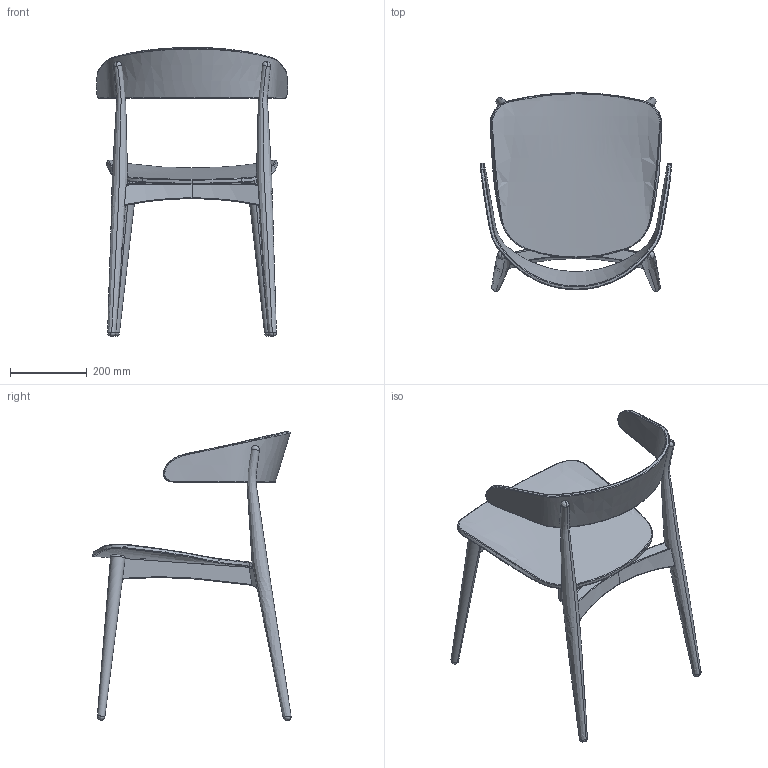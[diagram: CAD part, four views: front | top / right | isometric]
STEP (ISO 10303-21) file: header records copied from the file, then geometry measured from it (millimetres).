
FILE_DESCRIPTION(/* description */ (''),/* implementation_level */ '2;1');
FILE_NAME(/* name */ 'Pure Sillon - Asiento Madera',/* time_stamp */ '2019-05-08T09:29:15+02:00',/* author */ (''),/* organization */ (''),/* preprocessor_version */ 'ST-DEVELOPER v10',/* originating_system */ '',/* authorisation */ '');
FILE_SCHEMA (('CONFIG_CONTROL_DESIGN'));
Length unit declared in the file: millimetre
Products named in the file (1): 1
Bounding box: 498.69 x 517.36 x 754.38 mm (x, y, z)
Volume: 6275796.7 mm3; surface area: 1002349.7 mm2
Topology: 18 solids, 18 shells, 259 faces, 655 edges, 428 vertices
Faces by surface type: bspline 215, plane 44
Entity records: 98025 total; most frequent: CARTESIAN_POINT 94146, ORIENTED_EDGE 1302, EDGE_CURVE 651, VERTEX_POINT 428, B_SPLINE_CURVE_WITH_KNOTS 425, ADVANCED_FACE 259, FACE_OUTER_BOUND 259, EDGE_LOOP 259
